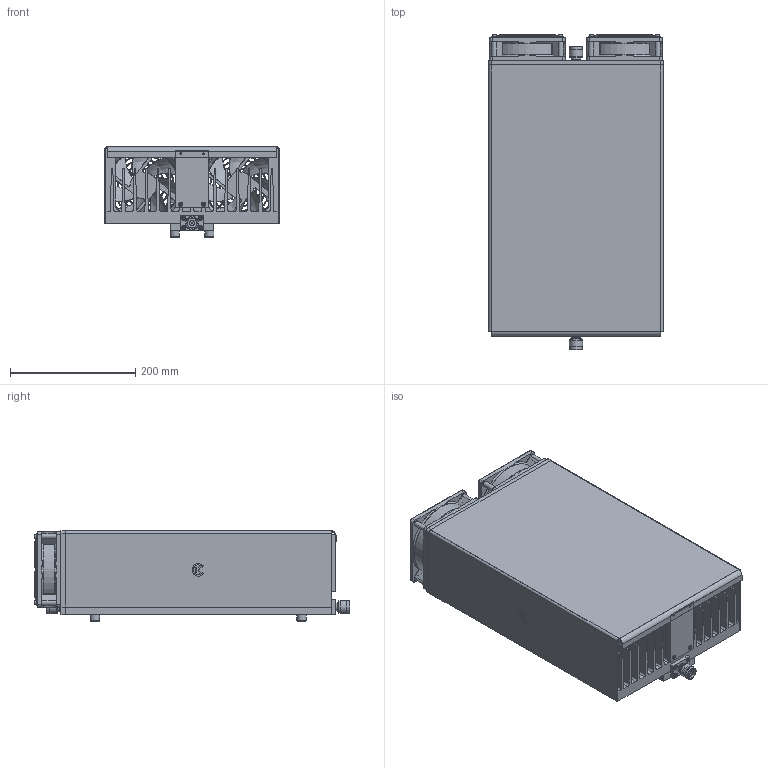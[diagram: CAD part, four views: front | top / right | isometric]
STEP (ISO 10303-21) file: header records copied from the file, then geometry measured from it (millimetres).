
FILE_DESCRIPTION(('STEP AP203'), '1');
FILE_NAME('栖闉罻 1500 鎗', '', ('UNSPECIFIED'), ('UNSPECIFIED'), 'C3D Converter', 'C3D Toolkit', '');
FILE_SCHEMA(('CONFIG_CONTROL_DESIGN'));
Length unit declared in the file: millimetre
Products named in the file (22): -01; Вентилятор 120x120x25; Вентилятор_винт 120х120х25; Вентилятор_основа 120х120х25
Assembly tree (58 placements, depth 3):
  (unnamed)
    (unnamed)
    (unnamed)
    (unnamed)
    (unnamed)
    (unnamed)
    (unnamed)
    -01
    (unnamed)
    Вентилятор 120x120x25  x2
      Вентилятор_винт 120х120х25
      Вентилятор_основа 120х120х25
    (unnamed)  x10
    -01  x6
    (unnamed)
    -01
    (unnamed)  x21
    (unnamed)  x2
    -01  x2
    -01
    (unnamed)
    -01
Bounding box: 278 x 503.15 x 144 mm (x, y, z)
Volume: 4937969.4 mm3; surface area: 1908082.7 mm2
Topology: 58 solids, 58 shells, 3070 faces, 8185 edges, 4989 vertices
Faces by surface type: plane 1197, bspline 816, cylinder 726, torus 190, cone 141
Full cylindrical faces by diameter (mm): 1.65 x2, 1.66 x1, 2.459 x25, 2.5 x3, 3 x22, 3.04 x3, 3.2 x2, 3.242 x8, 3.5 x8, 4.134 x16, 5 x16, 5.5 x57, 6 x1, 7 x13, 8 x1, 8.04 x2, 8.06 x1, 8.5 x20, 9 x2, 10 x17, 11.6 x3, 12.7 x2, 14 x2, 14.94 x2, 15 x4, 15.75 x2, 15.87 x1, 16 x5, 16.5 x2, 17.46 x2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
Entity records: 83937 total; most frequent: CARTESIAN_POINT 24959, ORIENTED_EDGE 9174, DIRECTION 8228, EDGE_CURVE 4587, AXIS2_PLACEMENT_3D 3160, VERTEX_POINT 3057, EDGE_LOOP 2458, FACE_BOUND 2128
